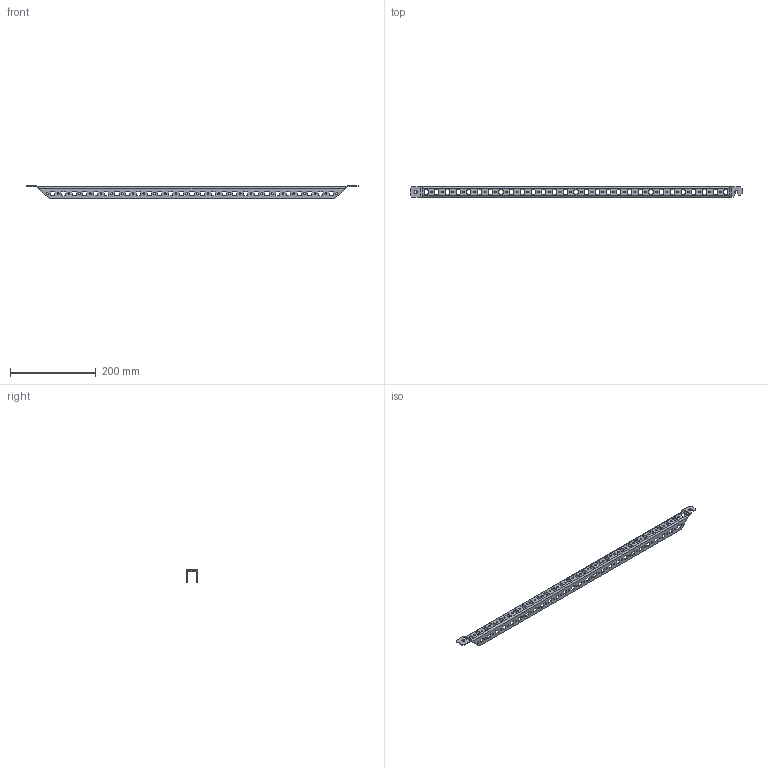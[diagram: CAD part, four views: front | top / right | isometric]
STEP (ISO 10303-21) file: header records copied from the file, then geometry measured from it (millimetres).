
FILE_DESCRIPTION (( 'STEP AP214' ), '1' );
FILE_NAME ('MG 80.03 Ðåéêà ìîíòàæíàÿ v2.STEP', '2018-06-20T09:55:41', ( '' ), ( '' ), 'SwSTEP 2.0', 'SolidWorks 2012', '' );
FILE_SCHEMA (( 'AUTOMOTIVE_DESIGN' ));
Length unit declared in the file: millimetre
Products named in the file (1): MG 80.03 Ðåéêà ìîíòàæíàÿ v2
Bounding box: 775 x 24 x 29.5 mm (x, y, z)
Volume: 86631.8 mm3; surface area: 98322.1 mm2
Topology: 1 solids, 1 shells, 912 faces, 2682 edges, 1772 vertices
Faces by surface type: cylinder 517, plane 395
Entity records: 31362 total; most frequent: DIRECTION 5542, CARTESIAN_POINT 5367, ORIENTED_EDGE 5364, EDGE_CURVE 2682, AXIS2_PLACEMENT_3D 1947, VERTEX_POINT 1772, LINE 1648, VECTOR 1648
